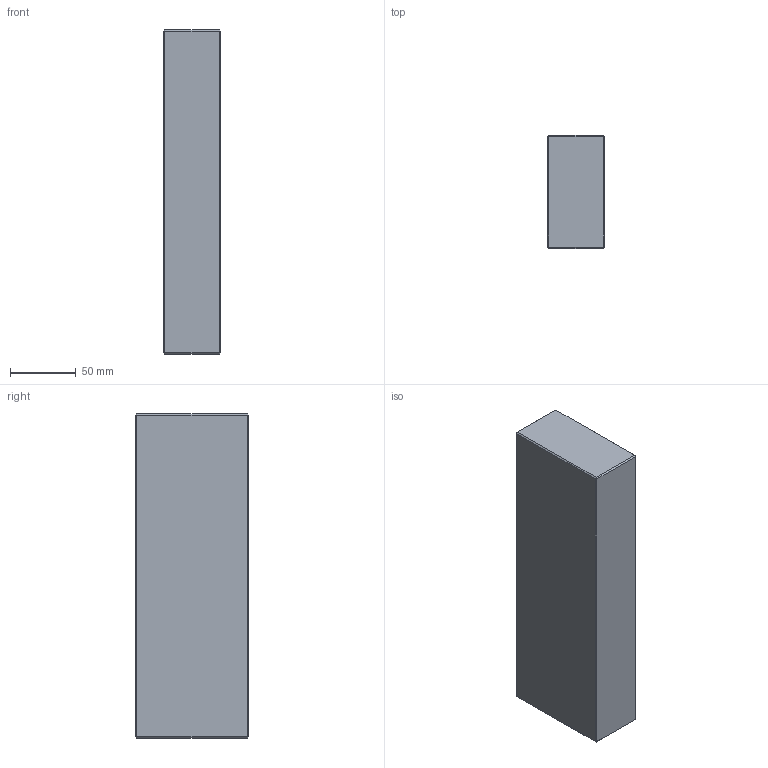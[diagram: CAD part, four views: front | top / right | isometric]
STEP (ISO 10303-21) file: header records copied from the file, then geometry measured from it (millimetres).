
FILE_DESCRIPTION (( 'STEP AP214' ), '1' );
FILE_NAME ('ESP-P-246X246x86.STEP', '2020-04-08T10:33:29', ( 'August' ), ( '' ), 'SwSTEP 2.0', 'SolidWorks 2018', '' );
FILE_SCHEMA (( 'AUTOMOTIVE_DESIGN' ));
Length unit declared in the file: millimetre
Products named in the file (1): ESP-P-246X246x86
Bounding box: 43 x 86 x 246 mm (x, y, z)
Volume: 908963.3 mm3; surface area: 69982.3 mm2
Topology: 1 solids, 1 shells, 26 faces, 48 edges, 24 vertices
Faces by surface type: plane 26
Entity records: 634 total; most frequent: DIRECTION 102, CARTESIAN_POINT 99, ORIENTED_EDGE 96, VECTOR 48, LINE 48, EDGE_CURVE 48, AXIS2_PLACEMENT_3D 27, EDGE_LOOP 26
